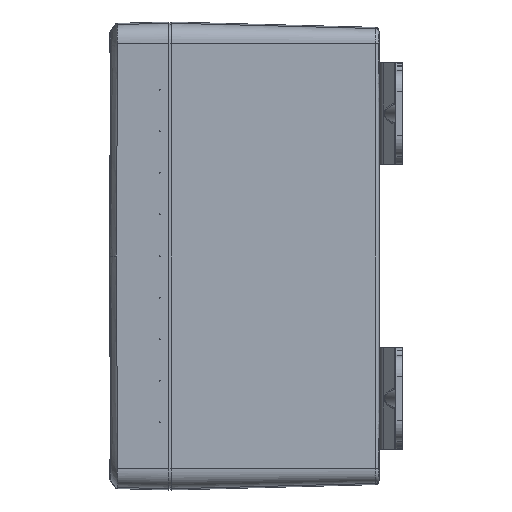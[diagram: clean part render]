
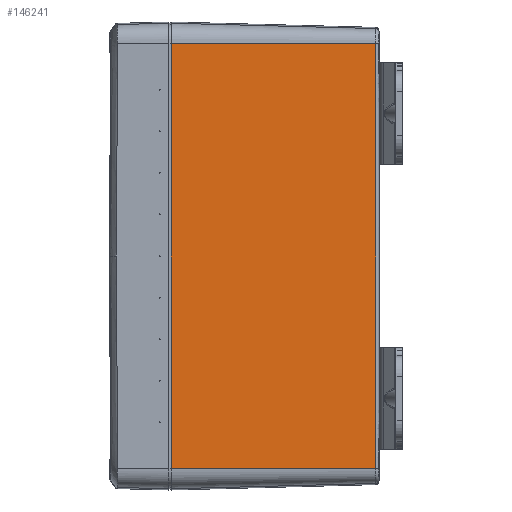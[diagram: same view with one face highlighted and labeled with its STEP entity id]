
A CAD part, left-side view. The second image highlights one B-rep face of the part: STEP entity #146241.
In plain terms, the highlighted planar face has unit normal (-1, -0.026, 0).
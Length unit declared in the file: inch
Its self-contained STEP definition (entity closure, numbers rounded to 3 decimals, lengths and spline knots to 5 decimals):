
#703 = DIRECTION ( 'NONE',  ( 0.026, -1., 0. ) ) ;
#11373 = LINE ( 'NONE', #125829, #63444 ) ;
#16396 = CARTESIAN_POINT ( 'NONE',  ( -3.875, 2.55875, -2.60995 ) ) ;
#17201 = DIRECTION ( 'NONE',  ( 0., 0., 1. ) ) ;
#25438 = EDGE_CURVE ( 'NONE', #145968, #154040, #151035, .T. ) ;
#25974 = AXIS2_PLACEMENT_3D ( 'NONE', #89530, #53300, #125856 ) ;
#27937 = LINE ( 'NONE', #16396, #83950 ) ;
#34130 = ORIENTED_EDGE ( 'NONE', *, *, #25438, .T. ) ;
#36532 = CARTESIAN_POINT ( 'NONE',  ( -3.80922, 0.04673, 0.86998 ) ) ;
#38159 = EDGE_CURVE ( 'NONE', #96438, #154040, #11373, .T. ) ;
#39354 = FACE_OUTER_BOUND ( 'NONE', #123257, .T. ) ;
#40168 = PLANE ( 'NONE',  #25974 ) ;
#45037 = ORIENTED_EDGE ( 'NONE', *, *, #72259, .F. ) ;
#46357 = ORIENTED_EDGE ( 'NONE', *, *, #144285, .T. ) ;
#53300 = DIRECTION ( 'NONE',  ( -1., -0.026, 0. ) ) ;
#58280 = CARTESIAN_POINT ( 'NONE',  ( -3.80922, 0.04673, 2.60995 ) ) ;
#60384 = CARTESIAN_POINT ( 'NONE',  ( -3.80922, 0.04673, 2.60995 ) ) ;
#63444 = VECTOR ( 'NONE', #100231, 39.37008 ) ;
#64854 = CARTESIAN_POINT ( 'NONE',  ( -3.875, 2.55875, -2.60995 ) ) ;
#68315 = VECTOR ( 'NONE', #703, 39.37008 ) ;
#71960 = CARTESIAN_POINT ( 'NONE',  ( -3.80922, 0.04671, -2.60995 ) ) ;
#72259 = EDGE_CURVE ( 'NONE', #102458, #96438, #27937, .T. ) ;
#83950 = VECTOR ( 'NONE', #17201, 39.37008 ) ;
#87540 = CARTESIAN_POINT ( 'NONE',  ( -3.875, 2.55875, -2.60995 ) ) ;
#89530 = CARTESIAN_POINT ( 'NONE',  ( -3.875, 2.55875, -2.60995 ) ) ;
#96438 = VERTEX_POINT ( 'NONE', #126249 ) ;
#100231 = DIRECTION ( 'NONE',  ( 0.026, -1., 0. ) ) ;
#102458 = VERTEX_POINT ( 'NONE', #87540 ) ;
#111287 = CARTESIAN_POINT ( 'NONE',  ( -3.80922, 0.04671, -2.60995 ) ) ;
#122234 = CARTESIAN_POINT ( 'NONE',  ( -3.80922, 0.04673, -0.86998 ) ) ;
#123257 = EDGE_LOOP ( 'NONE', ( #46357, #34130, #148833, #45037 ) ) ;
#125829 = CARTESIAN_POINT ( 'NONE',  ( -3.875, 2.55875, 2.60995 ) ) ;
#125856 = DIRECTION ( 'NONE',  ( 0.026, -1., 0. ) ) ;
#126249 = CARTESIAN_POINT ( 'NONE',  ( -3.875, 2.55875, 2.60995 ) ) ;
#138236 = LINE ( 'NONE', #64854, #68315 ) ;
#144285 = EDGE_CURVE ( 'NONE', #102458, #145968, #138236, .T. ) ;
#145968 = VERTEX_POINT ( 'NONE', #111287 ) ;
#146241 = ADVANCED_FACE ( 'Face2', ( #39354 ), #40168, .T. ) ;
#148833 = ORIENTED_EDGE ( 'NONE', *, *, #38159, .F. ) ;
#151035 = B_SPLINE_CURVE_WITH_KNOTS ( 'NONE', 3,
 ( #71960, #122234, #36532, #60384 ),
 .UNSPECIFIED., .F., .F.,
 ( 4, 4 ),
 ( 0., 1. ),
 .UNSPECIFIED. ) ;
#154040 = VERTEX_POINT ( 'NONE', #58280 ) ;
